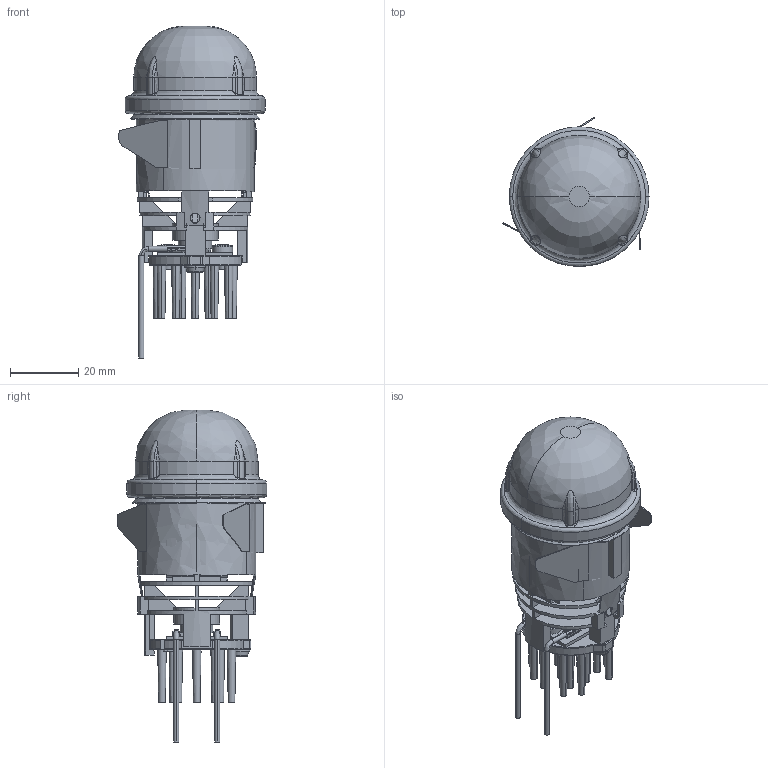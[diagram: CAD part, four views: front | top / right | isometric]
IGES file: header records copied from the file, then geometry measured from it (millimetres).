
Global section: file name: C:\CoreTechnologie\3D-In/01YYD19Y0E.igs; native system: CT CoreTechnologie 3D Evolution; preprocessor: 2006; date: 1210407.093027; units: millimetre
Bounding box: 42.85 x 43.78 x 97.39 mm (x, y, z)
Volume: 24139.2 mm3; surface area: 26512.4 mm2
Topology: 14 solids, 16 shells, 1113 faces, 2952 edges, 1892 vertices
Faces by surface type: plane 602, revolution 431, bspline 80
